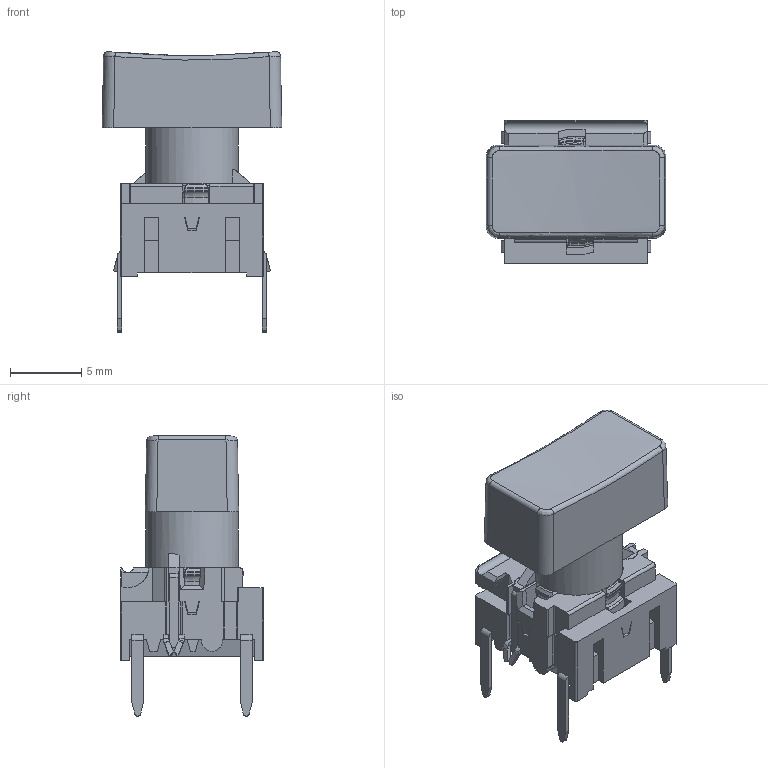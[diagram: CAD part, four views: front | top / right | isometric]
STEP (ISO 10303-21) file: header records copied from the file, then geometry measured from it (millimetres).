
FILE_DESCRIPTION(/* description */ (''),/* implementation_level */ '2;1');
FILE_NAME(/* name */ 'C:\Users\cgh.MEC\Desktop\Traceparts - 3D programserie\STEP filer\il-TH\5GTH9xxxxxxx+1PS.stp',/* time_stamp */ '2016-02-29T07:48:43+01:00',/* author */ ('cgh'),/* organization */ (''),/* preprocessor_version */ 'ST-DEVELOPER v15.2',/* originating_system */ 'Autodesk Inventor 2014',/* authorisation */ '');
FILE_SCHEMA (('AUTOMOTIVE_DESIGN { 1 0 10303 214 3 1 1 }'));
Length unit declared in the file: centimetre
Products named in the file (1): cgh
Bounding box: 12.56 x 10 x 19.62 mm (x, y, z)
Volume: 705.9 mm3; surface area: 1770.3 mm2
Topology: 1 solids, 1 shells, 1262 faces, 3616 edges, 2362 vertices
Faces by surface type: plane 820, cylinder 209, bspline 122, torus 71, cone 35, sphere 5
Full cylindrical faces by diameter (mm): 0.9 x1, 1 x3, 2.8 x1, 4.73 x1, 5.2 x1, 6.5 x2, 7.44 x1
Entity records: 44411 total; most frequent: CARTESIAN_POINT 10810, ORIENTED_EDGE 7142, DIRECTION 6158, EDGE_CURVE 3571, LINE 2384, VECTOR 2384, VERTEX_POINT 2348, AXIS2_PLACEMENT_3D 1887
